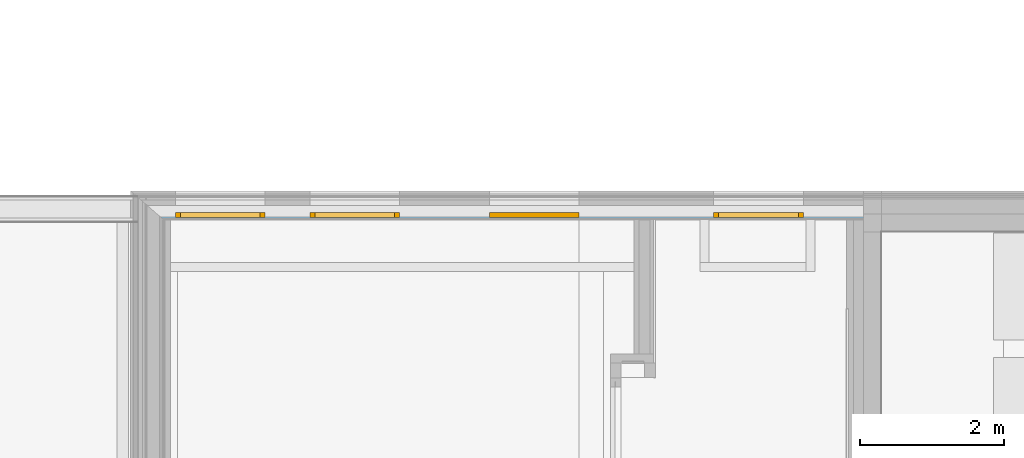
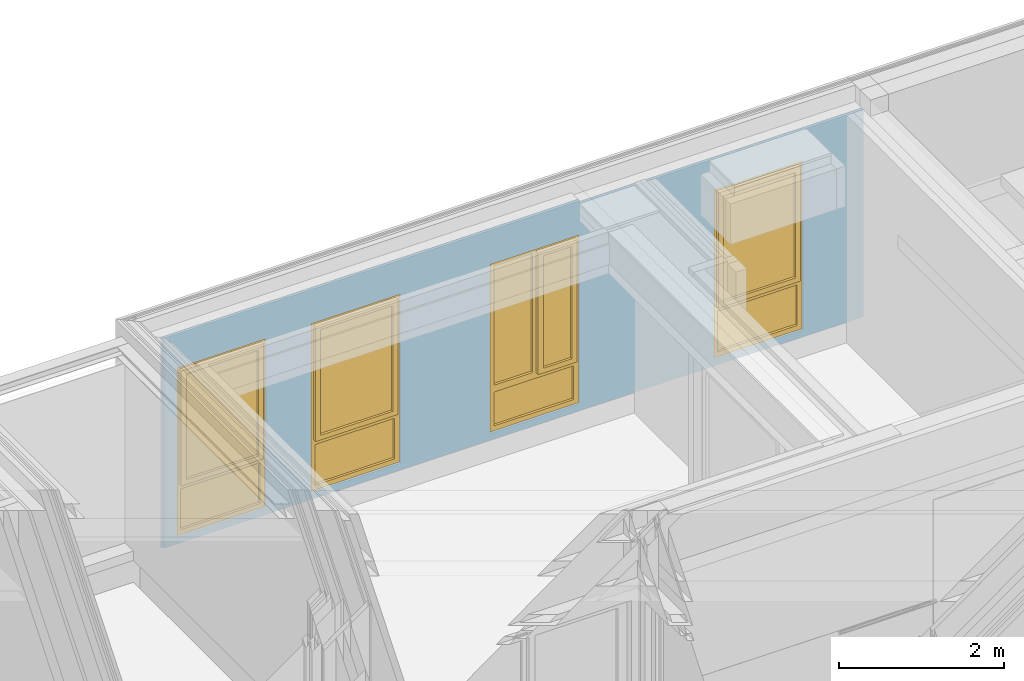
# One storey, part 115 of 207: 4 windows, 4 openings, plus 1 element that does not belong to this part.
"""IFC4 building model written with IfcOpenShell, lengths in metres."""

from ifc_helpers import new_model, entity, si_unit, converted_unit, derived_unit, frame, origin, origin_with_axes, place, context, subcontext, project, spatial, polyline, outline, extrude, clip, bounded_halfspace, closed_shell, open_shell, surface_model, source, transform, mapped, material, type_object, element, fill, save


model = new_model("IFC4")

# Units and contexts
model_context = context("Model", 3, precision=1e-05, world=origin())
body_context = subcontext(model_context, "Body", "Model", "MODEL_VIEW")
ifc_project = project(units=[si_unit("LENGTHUNIT", "METRE"), si_unit("AREAUNIT", "SQUARE_METRE"), si_unit("VOLUMEUNIT", "CUBIC_METRE"), si_unit("MASSUNIT", "GRAM", prefix="KILO"), converted_unit("PLANEANGLEUNIT", "DEGREE", entity("IfcPlaneAngleMeasure", 0.0174532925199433), si_unit("PLANEANGLEUNIT", "RADIAN"), dimensions=[0, 0, 0, 0, 0, 0, 0]), derived_unit("THERMALTRANSMITTANCEUNIT", [(si_unit("POWERUNIT", "WATT"), 1), (si_unit("THERMODYNAMICTEMPERATUREUNIT", "KELVIN"), -1), (si_unit("LENGTHUNIT", "METRE"), -2)]), derived_unit("VOLUMETRICFLOWRATEUNIT", [(si_unit("LENGTHUNIT", "METRE"), 3), (converted_unit("TIMEUNIT", "hour", entity("IfcTimeMeasure", 3600.0), si_unit("TIMEUNIT", "SECOND"), dimensions=[0, 0, 1, 0, 0, 0, 0]), -1), (si_unit("LENGTHUNIT", "METRE"), -1)])], contexts=[model_context])

# Site, building, storey
site_placement = place(None, origin())
site = spatial("IfcSite", under=ifc_project, at=site_placement, Name="Psychiatrie Neubau Wunstorf", CompositionType="ELEMENT")
building_placement = place(site_placement, origin())
building = spatial("IfcBuilding", under=site, at=building_placement, Name="Neubau H2 Stationsgebäude", CompositionType="ELEMENT")
storey_placement = place(building_placement, frame((0.0, 0.0, -0.2)))
storey = spatial("IfcBuildingStorey", under=building, at=storey_placement, Name="H2 Ebene 0", CompositionType="ELEMENT", Elevation=-0.2)

# Wall, openings, windows
ifc_material = material(Name="WA-LB")
wall_placement = place(storey_placement, frame((38.1475, 29.0639996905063, 0.5)))
wall = element("IfcWall", 1, at=wall_placement, inside=storey, material=ifc_material, context=body_context, shape_type="Clipping", body=[
    clip(extrude(outline(polyline([(0.041373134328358, 0.0), (9.79387313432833, 0.0), (9.79387313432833, 0.036), (0.0, 0.036), (0.041373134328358, 0.0)])), frame((-0.041373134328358, 0.0, 0.0), z_axis=(0.0, 0.0, 1.0), x_axis=(1.0, 0.0, 0.0)), (0.0, 0.0, 1.0), 3.1), bounded_halfspace(frame((7.77125000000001, 0.018, 3.06), z_axis=(0.0, 0.0, -1.0), x_axis=(1.0, 0.0, 0.0)), True, origin_with_axes(), polyline([(5.79000000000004, 0.0), (9.75249999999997, 0.0), (9.75249999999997, 0.036), (5.79000000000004, 0.036), (5.79000000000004, 0.0)]))),
])
opening_1_placement = place(wall_placement, frame((1.41500000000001, 0.036, 0.1), z_axis=(0.0, -1.0, 0.0), x_axis=(0.0, 0.0, 1.0)))
opening_1 = element("IfcOpeningElement", 2, at=opening_1_placement, cuts=wall, Name="Fensteröffnung", ObjectType="Opening", context=body_context, shape_type="SweptSolid", body=[
    extrude(outline(polyline([(2.5, 1.25), (2.5, 0.0), (0.0, 0.0), (0.0, 1.25), (2.5, 1.25)])), origin_with_axes(), (0.0, 0.0, 1.0), 0.036),
])
opening_2_placement = place(wall_placement, frame((8.91500000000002, 0.036, 0.1), z_axis=(0.0, -1.0, 0.0), x_axis=(0.0, 0.0, 1.0)))
opening_2 = element("IfcOpeningElement", 3, at=opening_2_placement, cuts=wall, Name="Fensteröffnung", ObjectType="Opening", context=body_context, shape_type="SweptSolid", body=[
    extrude(outline(polyline([(2.5, 1.25), (2.5, 0.0), (0.0, 0.0), (0.0, 1.25), (2.5, 1.25)])), origin_with_axes(), (0.0, 0.0, 1.0), 0.036),
])
opening_3_placement = place(wall_placement, frame((5.79000000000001, 0.036, 0.1), z_axis=(0.0, -1.0, 0.0), x_axis=(0.0, 0.0, 1.0)))
opening_3 = element("IfcOpeningElement", 4, at=opening_3_placement, cuts=wall, Name="Fensteröffnung", ObjectType="Opening", context=body_context, shape_type="SweptSolid", body=[
    extrude(outline(polyline([(2.5, 1.25), (2.5, 0.0), (0.0, 0.0), (0.0, 1.25), (2.5, 1.25)])), origin_with_axes(), (0.0, 0.0, 1.0), 0.036),
])
opening_4_placement = place(wall_placement, frame((3.29000000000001, 0.036, 0.1), z_axis=(0.0, -1.0, 0.0), x_axis=(0.0, 0.0, 1.0)))
opening_4 = element("IfcOpeningElement", 5, at=opening_4_placement, cuts=wall, Name="Fensteröffnung", ObjectType="Opening", context=body_context, shape_type="SweptSolid", body=[
    extrude(outline(polyline([(2.5, 1.25), (2.5, 0.0), (0.0, 0.0), (0.0, 1.25), (2.5, 1.25)])), origin_with_axes(), (0.0, 0.0, 1.0), 0.036),
])
window_type_1 = type_object("IfcWindowType", Name="Fenster", ParameterTakesPrecedence=False, PartitioningType="SINGLE_PANEL", PredefinedType="WINDOW")
shared_shape_1 = source(origin_with_axes(), body_context, "Body", "SurfaceModel", [
    surface_model("IfcShellBasedSurfaceModel", [(0.0, 0.0, 2.5), (0.07, 0.0, 2.5), (0.07, 0.0, 0.0), (0.0, 0.0, 0.0), (0.0, 0.0699999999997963, 0.0), (0.07, 0.0699999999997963, 0.0), (0.07, 0.0699999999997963, 2.5), (0.0, 0.0699999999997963, 2.5)], [closed_shell([[[0, 1, 2, 3]], [[4, 5, 6, 7]], [[3, 4, 7, 0]], [[2, 5, 4, 3]], [[1, 6, 5, 2]], [[0, 7, 6, 1]]], orient=[[False], [False], [False], [False], [False], [False]])]),
    surface_model("IfcShellBasedSurfaceModel", [(1.18, 0.0, 2.5), (1.25, 0.0, 2.5), (1.25, 0.0, 0.0), (1.18, 0.0, 0.0), (1.18, 0.0699999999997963, 0.0), (1.25, 0.0699999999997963, 0.0), (1.25, 0.0699999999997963, 2.5), (1.18, 0.0699999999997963, 2.5)], [closed_shell([[[0, 1, 2, 3]], [[4, 5, 6, 7]], [[3, 4, 7, 0]], [[2, 5, 4, 3]], [[1, 6, 5, 2]], [[0, 7, 6, 1]]], orient=[[False], [False], [False], [False], [False], [False]])]),
    surface_model("IfcShellBasedSurfaceModel", [(0.07, 0.0, 0.07), (1.18, 0.0, 0.07), (1.18, 0.0, 0.0), (0.07, 0.0, 0.0), (0.07, 0.0699999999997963, 0.0), (1.18, 0.0699999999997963, 0.0), (1.18, 0.0699999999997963, 0.07), (0.07, 0.0699999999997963, 0.07)], [closed_shell([[[0, 1, 2, 3]], [[4, 5, 6, 7]], [[3, 4, 7, 0]], [[2, 5, 4, 3]], [[1, 6, 5, 2]], [[0, 7, 6, 1]]], orient=[[False], [False], [False], [False], [False], [False]])]),
    surface_model("IfcShellBasedSurfaceModel", [(0.07, 0.0, 2.5), (1.18, 0.0, 2.5), (1.18, 0.0, 2.43), (0.07, 0.0, 2.43), (0.07, 0.0699999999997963, 2.43), (1.18, 0.0699999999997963, 2.43), (1.18, 0.0699999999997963, 2.5), (0.07, 0.0699999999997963, 2.5)], [closed_shell([[[0, 1, 2, 3]], [[4, 5, 6, 7]], [[3, 4, 7, 0]], [[2, 5, 4, 3]], [[1, 6, 5, 2]], [[0, 7, 6, 1]]], orient=[[False], [False], [False], [False], [False], [False]])]),
    surface_model("IfcShellBasedSurfaceModel", [(0.07, 0.0, 0.77), (1.18, 0.0, 0.77), (1.18, 0.0, 0.67), (0.07, 0.0, 0.67), (0.07, 0.0699999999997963, 0.67), (1.18, 0.0699999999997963, 0.67), (1.18, 0.0699999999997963, 0.77), (0.07, 0.0699999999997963, 0.77)], [closed_shell([[[0, 1, 2, 3]], [[4, 5, 6, 7]], [[3, 4, 7, 0]], [[2, 5, 4, 3]], [[1, 6, 5, 2]], [[0, 7, 6, 1]]], orient=[[False], [False], [False], [False], [False], [False]])]),
    surface_model("IfcShellBasedSurfaceModel", [(0.07, 0.0349999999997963, 0.07), (0.07, 0.0349999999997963, 0.67), (1.18, 0.0349999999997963, 0.67), (1.18, 0.0349999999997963, 0.07)], [open_shell([[[0, 1, 2, 3]]], orient=[[False]])]),
    surface_model("IfcShellBasedSurfaceModel", [(0.05, 0.0499999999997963, 2.45), (0.12, 0.0499999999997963, 2.45), (0.12, 0.0499999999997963, 0.75), (0.05, 0.0499999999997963, 0.75), (0.05, 0.119999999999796, 0.75), (0.12, 0.119999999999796, 0.75), (0.12, 0.119999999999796, 2.45), (0.05, 0.119999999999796, 2.45)], [closed_shell([[[0, 1, 2, 3]], [[4, 5, 6, 7]], [[3, 4, 7, 0]], [[2, 5, 4, 3]], [[1, 6, 5, 2]], [[0, 7, 6, 1]]], orient=[[False], [False], [False], [False], [False], [False]])]),
    surface_model("IfcShellBasedSurfaceModel", [(1.13, 0.0499999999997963, 2.45), (1.2, 0.0499999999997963, 2.45), (1.2, 0.0499999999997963, 0.75), (1.13, 0.0499999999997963, 0.75), (1.13, 0.119999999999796, 0.75), (1.2, 0.119999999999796, 0.75), (1.2, 0.119999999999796, 2.45), (1.13, 0.119999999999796, 2.45)], [closed_shell([[[0, 1, 2, 3]], [[4, 5, 6, 7]], [[3, 4, 7, 0]], [[2, 5, 4, 3]], [[1, 6, 5, 2]], [[0, 7, 6, 1]]], orient=[[False], [False], [False], [False], [False], [False]])]),
    surface_model("IfcShellBasedSurfaceModel", [(0.12, 0.0499999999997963, 0.82), (1.13, 0.0499999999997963, 0.82), (1.13, 0.0499999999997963, 0.75), (0.12, 0.0499999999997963, 0.75), (0.12, 0.119999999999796, 0.75), (1.13, 0.119999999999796, 0.75), (1.13, 0.119999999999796, 0.82), (0.12, 0.119999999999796, 0.82)], [closed_shell([[[0, 1, 2, 3]], [[4, 5, 6, 7]], [[3, 4, 7, 0]], [[2, 5, 4, 3]], [[1, 6, 5, 2]], [[0, 7, 6, 1]]], orient=[[False], [False], [False], [False], [False], [False]])]),
    surface_model("IfcShellBasedSurfaceModel", [(0.12, 0.0499999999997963, 2.45), (1.13, 0.0499999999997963, 2.45), (1.13, 0.0499999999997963, 2.38), (0.12, 0.0499999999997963, 2.38), (0.12, 0.119999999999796, 2.38), (1.13, 0.119999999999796, 2.38), (1.13, 0.119999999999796, 2.45), (0.12, 0.119999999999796, 2.45)], [closed_shell([[[0, 1, 2, 3]], [[4, 5, 6, 7]], [[3, 4, 7, 0]], [[2, 5, 4, 3]], [[1, 6, 5, 2]], [[0, 7, 6, 1]]], orient=[[False], [False], [False], [False], [False], [False]])]),
    surface_model("IfcShellBasedSurfaceModel", [(0.12, 0.0849999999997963, 0.82), (0.12, 0.0849999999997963, 2.38), (1.13, 0.0849999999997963, 2.38), (1.13, 0.0849999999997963, 0.82)], [open_shell([[[0, 1, 2, 3]]], orient=[[False]])]),
])
window_1_placement = place(opening_1_placement, frame((0.0, 0.0, -0.064), z_axis=(1.0, 0.0, 0.0), x_axis=(0.0, 1.0, 0.0)))
window_1 = element("IfcWindow", 6, at=window_1_placement, inside=storey, type_object=window_type_1, Name="Fenster", OverallHeight=2.5, OverallWidth=1.25, context=body_context, shape_type="MappedRepresentation", body=[
    mapped(shared_shape_1, transform((0.0, 0.0, 0.0), x_axis=(1.0, 0.0, 0.0), y_axis=(0.0, 1.0, 0.0), z_axis=(0.0, 0.0, 1.0), scale=1.0)),
])
fill(opening_1, window_1)
window_type_2 = type_object("IfcWindowType", Name="Fenster", ParameterTakesPrecedence=False, PartitioningType="DOUBLE_PANEL_HORIZONTAL", PredefinedType="WINDOW")
shared_shape_2 = source(origin_with_axes(), body_context, "Body", "SurfaceModel", [
    surface_model("IfcShellBasedSurfaceModel", [(0.0, 0.0, 2.5), (0.07, 0.0, 2.5), (0.07, 0.0, 0.0), (0.0, 0.0, 0.0), (0.0, 0.0699999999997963, 0.0), (0.07, 0.0699999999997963, 0.0), (0.07, 0.0699999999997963, 2.5), (0.0, 0.0699999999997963, 2.5)], [closed_shell([[[0, 1, 2, 3]], [[4, 5, 6, 7]], [[3, 4, 7, 0]], [[2, 5, 4, 3]], [[1, 6, 5, 2]], [[0, 7, 6, 1]]], orient=[[False], [False], [False], [False], [False], [False]])]),
    surface_model("IfcShellBasedSurfaceModel", [(1.18, 0.0, 2.5), (1.25, 0.0, 2.5), (1.25, 0.0, 0.0), (1.18, 0.0, 0.0), (1.18, 0.0699999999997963, 0.0), (1.25, 0.0699999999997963, 0.0), (1.25, 0.0699999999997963, 2.5), (1.18, 0.0699999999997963, 2.5)], [closed_shell([[[0, 1, 2, 3]], [[4, 5, 6, 7]], [[3, 4, 7, 0]], [[2, 5, 4, 3]], [[1, 6, 5, 2]], [[0, 7, 6, 1]]], orient=[[False], [False], [False], [False], [False], [False]])]),
    surface_model("IfcShellBasedSurfaceModel", [(0.07, 0.0, 0.07), (1.18, 0.0, 0.07), (1.18, 0.0, 0.0), (0.07, 0.0, 0.0), (0.07, 0.0699999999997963, 0.0), (1.18, 0.0699999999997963, 0.0), (1.18, 0.0699999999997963, 0.07), (0.07, 0.0699999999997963, 0.07)], [closed_shell([[[0, 1, 2, 3]], [[4, 5, 6, 7]], [[3, 4, 7, 0]], [[2, 5, 4, 3]], [[1, 6, 5, 2]], [[0, 7, 6, 1]]], orient=[[False], [False], [False], [False], [False], [False]])]),
    surface_model("IfcShellBasedSurfaceModel", [(0.07, 0.0, 2.5), (1.18, 0.0, 2.5), (1.18, 0.0, 2.43), (0.07, 0.0, 2.43), (0.07, 0.0699999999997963, 2.43), (1.18, 0.0699999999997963, 2.43), (1.18, 0.0699999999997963, 2.5), (0.07, 0.0699999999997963, 2.5)], [closed_shell([[[0, 1, 2, 3]], [[4, 5, 6, 7]], [[3, 4, 7, 0]], [[2, 5, 4, 3]], [[1, 6, 5, 2]], [[0, 7, 6, 1]]], orient=[[False], [False], [False], [False], [False], [False]])]),
    surface_model("IfcShellBasedSurfaceModel", [(0.07, 0.0, 0.77), (1.18, 0.0, 0.77), (1.18, 0.0, 0.67), (0.07, 0.0, 0.67), (0.07, 0.0699999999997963, 0.67), (1.18, 0.0699999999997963, 0.67), (1.18, 0.0699999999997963, 0.77), (0.07, 0.0699999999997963, 0.77)], [closed_shell([[[0, 1, 2, 3]], [[4, 5, 6, 7]], [[3, 4, 7, 0]], [[2, 5, 4, 3]], [[1, 6, 5, 2]], [[0, 7, 6, 1]]], orient=[[False], [False], [False], [False], [False], [False]])]),
    surface_model("IfcShellBasedSurfaceModel", [(0.07, 0.0349999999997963, 0.07), (0.07, 0.0349999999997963, 0.67), (1.18, 0.0349999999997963, 0.67), (1.18, 0.0349999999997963, 0.07)], [open_shell([[[0, 1, 2, 3]]], orient=[[False]])]),
    surface_model("IfcShellBasedSurfaceModel", [(0.05, 0.0499999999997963, 2.45), (0.12, 0.0499999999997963, 2.45), (0.12, 0.0499999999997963, 0.75), (0.05, 0.0499999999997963, 0.75), (0.05, 0.119999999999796, 0.75), (0.12, 0.119999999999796, 0.75), (0.12, 0.119999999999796, 2.45), (0.05, 0.119999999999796, 2.45)], [closed_shell([[[0, 1, 2, 3]], [[4, 5, 6, 7]], [[3, 4, 7, 0]], [[2, 5, 4, 3]], [[1, 6, 5, 2]], [[0, 7, 6, 1]]], orient=[[False], [False], [False], [False], [False], [False]])]),
    surface_model("IfcShellBasedSurfaceModel", [(1.13, 0.0499999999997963, 2.45), (1.2, 0.0499999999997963, 2.45), (1.2, 0.0499999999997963, 0.75), (1.13, 0.0499999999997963, 0.75), (1.13, 0.119999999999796, 0.75), (1.2, 0.119999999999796, 0.75), (1.2, 0.119999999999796, 2.45), (1.13, 0.119999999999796, 2.45)], [closed_shell([[[0, 1, 2, 3]], [[4, 5, 6, 7]], [[3, 4, 7, 0]], [[2, 5, 4, 3]], [[1, 6, 5, 2]], [[0, 7, 6, 1]]], orient=[[False], [False], [False], [False], [False], [False]])]),
    surface_model("IfcShellBasedSurfaceModel", [(0.12, 0.0499999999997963, 0.82), (1.13, 0.0499999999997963, 0.82), (1.13, 0.0499999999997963, 0.75), (0.12, 0.0499999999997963, 0.75), (0.12, 0.119999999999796, 0.75), (1.13, 0.119999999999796, 0.75), (1.13, 0.119999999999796, 0.82), (0.12, 0.119999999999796, 0.82)], [closed_shell([[[0, 1, 2, 3]], [[4, 5, 6, 7]], [[3, 4, 7, 0]], [[2, 5, 4, 3]], [[1, 6, 5, 2]], [[0, 7, 6, 1]]], orient=[[False], [False], [False], [False], [False], [False]])]),
    surface_model("IfcShellBasedSurfaceModel", [(0.12, 0.0499999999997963, 2.45), (1.13, 0.0499999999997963, 2.45), (1.13, 0.0499999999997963, 2.38), (0.12, 0.0499999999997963, 2.38), (0.12, 0.119999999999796, 2.38), (1.13, 0.119999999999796, 2.38), (1.13, 0.119999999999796, 2.45), (0.12, 0.119999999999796, 2.45)], [closed_shell([[[0, 1, 2, 3]], [[4, 5, 6, 7]], [[3, 4, 7, 0]], [[2, 5, 4, 3]], [[1, 6, 5, 2]], [[0, 7, 6, 1]]], orient=[[False], [False], [False], [False], [False], [False]])]),
    surface_model("IfcShellBasedSurfaceModel", [(0.12, 0.0849999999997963, 0.82), (0.12, 0.0849999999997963, 2.38), (1.13, 0.0849999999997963, 2.38), (1.13, 0.0849999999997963, 0.82)], [open_shell([[[0, 1, 2, 3]]], orient=[[False]])]),
])
window_2_placement = place(opening_2_placement, frame((0.0, 0.0, -0.064), z_axis=(1.0, 0.0, 0.0), x_axis=(0.0, 1.0, 0.0)))
window_2 = element("IfcWindow", 7, at=window_2_placement, inside=storey, type_object=window_type_2, Name="Fenster", OverallHeight=2.5, OverallWidth=1.25, context=body_context, shape_type="MappedRepresentation", body=[
    mapped(shared_shape_2, transform((0.0, 0.0, 0.0), x_axis=(1.0, 0.0, 0.0), y_axis=(0.0, 1.0, 0.0), z_axis=(0.0, 0.0, 1.0), scale=1.0)),
])
fill(opening_2, window_2)
shared_shape_3 = source(origin_with_axes(), body_context, "Body", "SurfaceModel", [
    surface_model("IfcShellBasedSurfaceModel", [(1.25, 0.0, 2.5), (1.25, 0.0, 0.0), (1.18, 0.0, 0.0), (1.18, 0.0, 2.5), (1.25, 0.07, 0.0), (1.25, 0.07, 2.5), (1.18, 0.07, 2.5), (1.18, 0.07, 0.0)], [closed_shell([[[0, 1, 2, 3]], [[4, 5, 6, 7]], [[1, 0, 5, 4]], [[2, 1, 4, 7]], [[3, 2, 7, 6]], [[0, 3, 6, 5]]], orient=[[False], [False], [False], [False], [False], [False]])]),
    surface_model("IfcShellBasedSurfaceModel", [(0.07, 0.0, 2.5), (0.07, 0.0, 0.0), (0.0, 0.0, 0.0), (0.0, 0.0, 2.5), (0.07, 0.07, 0.0), (0.07, 0.07, 2.5), (0.0, 0.07, 2.5), (0.0, 0.07, 0.0)], [closed_shell([[[0, 1, 2, 3]], [[4, 5, 6, 7]], [[1, 0, 5, 4]], [[2, 1, 4, 7]], [[3, 2, 7, 6]], [[0, 3, 6, 5]]], orient=[[False], [False], [False], [False], [False], [False]])]),
    surface_model("IfcShellBasedSurfaceModel", [(1.18, 0.0, 0.07), (1.18, 0.0, 0.0), (0.07, 0.0, 0.0), (0.07, 0.0, 0.07), (1.18, 0.07, 0.0), (1.18, 0.07, 0.07), (0.07, 0.07, 0.07), (0.07, 0.07, 0.0)], [closed_shell([[[0, 1, 2, 3]], [[4, 5, 6, 7]], [[1, 0, 5, 4]], [[2, 1, 4, 7]], [[3, 2, 7, 6]], [[0, 3, 6, 5]]], orient=[[False], [False], [False], [False], [False], [False]])]),
    surface_model("IfcShellBasedSurfaceModel", [(1.18, 0.0, 2.5), (1.18, 0.0, 2.43), (0.07, 0.0, 2.43), (0.07, 0.0, 2.5), (1.18, 0.07, 2.43), (1.18, 0.07, 2.5), (0.07, 0.07, 2.5), (0.07, 0.07, 2.43)], [closed_shell([[[0, 1, 2, 3]], [[4, 5, 6, 7]], [[1, 0, 5, 4]], [[2, 1, 4, 7]], [[3, 2, 7, 6]], [[0, 3, 6, 5]]], orient=[[False], [False], [False], [False], [False], [False]])]),
    surface_model("IfcShellBasedSurfaceModel", [(1.18, 0.0, 0.67), (1.18, 0.0, 0.57), (0.07, 0.0, 0.57), (0.07, 0.0, 0.67), (1.18, 0.07, 0.57), (1.18, 0.07, 0.67), (0.07, 0.07, 0.67), (0.07, 0.07, 0.57)], [closed_shell([[[0, 1, 2, 3]], [[4, 5, 6, 7]], [[1, 0, 5, 4]], [[2, 1, 4, 7]], [[3, 2, 7, 6]], [[0, 3, 6, 5]]], orient=[[False], [False], [False], [False], [False], [False]])]),
    surface_model("IfcShellBasedSurfaceModel", [(1.18, 0.035, 0.07), (0.07, 0.035, 0.07), (0.07, 0.035, 0.57), (1.18, 0.035, 0.57)], [open_shell([[[0, 1, 2, 3]]], orient=[[False]])]),
    surface_model("IfcShellBasedSurfaceModel", [(0.68, 0.0, 2.43), (0.68, 0.0, 0.67), (0.61, 0.0, 0.67), (0.61, 0.0, 2.43), (0.68, 0.07, 0.67), (0.68, 0.07, 2.43), (0.61, 0.07, 2.43), (0.61, 0.07, 0.67)], [closed_shell([[[0, 1, 2, 3]], [[4, 5, 6, 7]], [[1, 0, 5, 4]], [[2, 1, 4, 7]], [[3, 2, 7, 6]], [[0, 3, 6, 5]]], orient=[[False], [False], [False], [False], [False], [False]])]),
    surface_model("IfcShellBasedSurfaceModel", [(1.2, -0.05, 2.45), (1.2, -0.05, 0.65), (1.13, -0.05, 0.65), (1.13, -0.05, 2.45), (1.2, 0.02, 0.65), (1.2, 0.02, 2.45), (1.13, 0.02, 2.45), (1.13, 0.02, 0.65)], [closed_shell([[[0, 1, 2, 3]], [[4, 5, 6, 7]], [[1, 0, 5, 4]], [[2, 1, 4, 7]], [[3, 2, 7, 6]], [[0, 3, 6, 5]]], orient=[[False], [False], [False], [False], [False], [False]])]),
    surface_model("IfcShellBasedSurfaceModel", [(0.73, -0.05, 2.45), (0.73, -0.05, 0.65), (0.66, -0.05, 0.65), (0.66, -0.05, 2.45), (0.73, 0.02, 0.65), (0.73, 0.02, 2.45), (0.66, 0.02, 2.45), (0.66, 0.02, 0.65)], [closed_shell([[[0, 1, 2, 3]], [[4, 5, 6, 7]], [[1, 0, 5, 4]], [[2, 1, 4, 7]], [[3, 2, 7, 6]], [[0, 3, 6, 5]]], orient=[[False], [False], [False], [False], [False], [False]])]),
    surface_model("IfcShellBasedSurfaceModel", [(1.13, -0.05, 0.72), (1.13, -0.05, 0.65), (0.73, -0.05, 0.65), (0.73, -0.05, 0.72), (1.13, 0.02, 0.65), (1.13, 0.02, 0.72), (0.73, 0.02, 0.72), (0.73, 0.02, 0.65)], [closed_shell([[[0, 1, 2, 3]], [[4, 5, 6, 7]], [[1, 0, 5, 4]], [[2, 1, 4, 7]], [[3, 2, 7, 6]], [[0, 3, 6, 5]]], orient=[[False], [False], [False], [False], [False], [False]])]),
    surface_model("IfcShellBasedSurfaceModel", [(1.13, -0.05, 2.45), (1.13, -0.05, 2.38), (0.73, -0.05, 2.38), (0.73, -0.05, 2.45), (1.13, 0.02, 2.38), (1.13, 0.02, 2.45), (0.73, 0.02, 2.45), (0.73, 0.02, 2.38)], [closed_shell([[[0, 1, 2, 3]], [[4, 5, 6, 7]], [[1, 0, 5, 4]], [[2, 1, 4, 7]], [[3, 2, 7, 6]], [[0, 3, 6, 5]]], orient=[[False], [False], [False], [False], [False], [False]])]),
    surface_model("IfcShellBasedSurfaceModel", [(0.61, 0.035, 0.67), (0.07, 0.035, 0.67), (0.07, 0.035, 2.43), (0.61, 0.035, 2.43)], [open_shell([[[0, 1, 2, 3]]], orient=[[False]])]),
    surface_model("IfcShellBasedSurfaceModel", [(1.13, -0.015, 0.72), (0.73, -0.015, 0.72), (0.73, -0.015, 2.38), (1.13, -0.015, 2.38)], [open_shell([[[0, 1, 2, 3]]], orient=[[False]])]),
])
window_3_placement = place(opening_3_placement, frame((0.0, 1.25, 0.006), z_axis=(1.0, 0.0, 0.0), x_axis=(0.0, -1.0, 0.0)))
window_3 = element("IfcWindow", 8, at=window_3_placement, inside=storey, Name="Fenster", OverallHeight=2.5, OverallWidth=1.25, PartitioningType="USERDEFINED", PredefinedType="WINDOW", context=body_context, shape_type="MappedRepresentation", body=[
    mapped(shared_shape_3, transform((0.0, 0.0, 0.0), x_axis=(1.0, 0.0, 0.0), y_axis=(0.0, 1.0, 0.0), z_axis=(0.0, 0.0, 1.0), scale=1.0)),
])
fill(opening_3, window_3)
window_type_3 = type_object("IfcWindowType", Name="Fenster", ParameterTakesPrecedence=False, PartitioningType="DOUBLE_PANEL_HORIZONTAL", PredefinedType="WINDOW")
shared_shape_4 = source(origin_with_axes(), body_context, "Body", "SurfaceModel", [
    surface_model("IfcShellBasedSurfaceModel", [(1.25, 0.0, 2.5), (1.25, 0.0, 0.0), (1.18, 0.0, 0.0), (1.18, 0.0, 2.5), (1.25, 0.0699999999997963, 0.0), (1.25, 0.0699999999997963, 2.5), (1.18, 0.0699999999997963, 2.5), (1.18, 0.0699999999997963, 0.0)], [closed_shell([[[0, 1, 2, 3]], [[4, 5, 6, 7]], [[1, 0, 5, 4]], [[2, 1, 4, 7]], [[3, 2, 7, 6]], [[0, 3, 6, 5]]], orient=[[False], [False], [False], [False], [False], [False]])]),
    surface_model("IfcShellBasedSurfaceModel", [(0.07, 0.0, 2.5), (0.07, 0.0, 0.0), (0.0, 0.0, 0.0), (0.0, 0.0, 2.5), (0.07, 0.0699999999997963, 0.0), (0.07, 0.0699999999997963, 2.5), (0.0, 0.0699999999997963, 2.5), (0.0, 0.0699999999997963, 0.0)], [closed_shell([[[0, 1, 2, 3]], [[4, 5, 6, 7]], [[1, 0, 5, 4]], [[2, 1, 4, 7]], [[3, 2, 7, 6]], [[0, 3, 6, 5]]], orient=[[False], [False], [False], [False], [False], [False]])]),
    surface_model("IfcShellBasedSurfaceModel", [(1.18, 0.0, 0.07), (1.18, 0.0, 0.0), (0.07, 0.0, 0.0), (0.07, 0.0, 0.07), (1.18, 0.0699999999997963, 0.0), (1.18, 0.0699999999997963, 0.07), (0.07, 0.0699999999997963, 0.07), (0.07, 0.0699999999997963, 0.0)], [closed_shell([[[0, 1, 2, 3]], [[4, 5, 6, 7]], [[1, 0, 5, 4]], [[2, 1, 4, 7]], [[3, 2, 7, 6]], [[0, 3, 6, 5]]], orient=[[False], [False], [False], [False], [False], [False]])]),
    surface_model("IfcShellBasedSurfaceModel", [(1.18, 0.0, 2.5), (1.18, 0.0, 2.43), (0.07, 0.0, 2.43), (0.07, 0.0, 2.5), (1.18, 0.0699999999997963, 2.43), (1.18, 0.0699999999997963, 2.5), (0.07, 0.0699999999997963, 2.5), (0.07, 0.0699999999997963, 2.43)], [closed_shell([[[0, 1, 2, 3]], [[4, 5, 6, 7]], [[1, 0, 5, 4]], [[2, 1, 4, 7]], [[3, 2, 7, 6]], [[0, 3, 6, 5]]], orient=[[False], [False], [False], [False], [False], [False]])]),
    surface_model("IfcShellBasedSurfaceModel", [(1.18, 0.0, 0.77), (1.18, 0.0, 0.67), (0.07, 0.0, 0.67), (0.07, 0.0, 0.77), (1.18, 0.0699999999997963, 0.67), (1.18, 0.0699999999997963, 0.77), (0.07, 0.0699999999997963, 0.77), (0.07, 0.0699999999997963, 0.67)], [closed_shell([[[0, 1, 2, 3]], [[4, 5, 6, 7]], [[1, 0, 5, 4]], [[2, 1, 4, 7]], [[3, 2, 7, 6]], [[0, 3, 6, 5]]], orient=[[False], [False], [False], [False], [False], [False]])]),
    surface_model("IfcShellBasedSurfaceModel", [(1.18, 0.0349999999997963, 0.07), (0.07, 0.0349999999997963, 0.07), (0.07, 0.0349999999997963, 0.67), (1.18, 0.0349999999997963, 0.67)], [open_shell([[[0, 1, 2, 3]]], orient=[[False]])]),
    surface_model("IfcShellBasedSurfaceModel", [(1.2, 0.0499999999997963, 2.45), (1.2, 0.0499999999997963, 0.75), (1.13, 0.0499999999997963, 0.75), (1.13, 0.0499999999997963, 2.45), (1.2, 0.119999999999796, 0.75), (1.2, 0.119999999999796, 2.45), (1.13, 0.119999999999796, 2.45), (1.13, 0.119999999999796, 0.75)], [closed_shell([[[0, 1, 2, 3]], [[4, 5, 6, 7]], [[1, 0, 5, 4]], [[2, 1, 4, 7]], [[3, 2, 7, 6]], [[0, 3, 6, 5]]], orient=[[False], [False], [False], [False], [False], [False]])]),
    surface_model("IfcShellBasedSurfaceModel", [(0.12, 0.0499999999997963, 2.45), (0.12, 0.0499999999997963, 0.75), (0.05, 0.0499999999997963, 0.75), (0.05, 0.0499999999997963, 2.45), (0.12, 0.119999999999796, 0.75), (0.12, 0.119999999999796, 2.45), (0.05, 0.119999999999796, 2.45), (0.05, 0.119999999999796, 0.75)], [closed_shell([[[0, 1, 2, 3]], [[4, 5, 6, 7]], [[1, 0, 5, 4]], [[2, 1, 4, 7]], [[3, 2, 7, 6]], [[0, 3, 6, 5]]], orient=[[False], [False], [False], [False], [False], [False]])]),
    surface_model("IfcShellBasedSurfaceModel", [(1.13, 0.0499999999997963, 0.82), (1.13, 0.0499999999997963, 0.75), (0.12, 0.0499999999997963, 0.75), (0.12, 0.0499999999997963, 0.82), (1.13, 0.119999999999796, 0.75), (1.13, 0.119999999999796, 0.82), (0.12, 0.119999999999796, 0.82), (0.12, 0.119999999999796, 0.75)], [closed_shell([[[0, 1, 2, 3]], [[4, 5, 6, 7]], [[1, 0, 5, 4]], [[2, 1, 4, 7]], [[3, 2, 7, 6]], [[0, 3, 6, 5]]], orient=[[False], [False], [False], [False], [False], [False]])]),
    surface_model("IfcShellBasedSurfaceModel", [(1.13, 0.0499999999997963, 2.45), (1.13, 0.0499999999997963, 2.38), (0.12, 0.0499999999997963, 2.38), (0.12, 0.0499999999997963, 2.45), (1.13, 0.119999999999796, 2.38), (1.13, 0.119999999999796, 2.45), (0.12, 0.119999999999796, 2.45), (0.12, 0.119999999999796, 2.38)], [closed_shell([[[0, 1, 2, 3]], [[4, 5, 6, 7]], [[1, 0, 5, 4]], [[2, 1, 4, 7]], [[3, 2, 7, 6]], [[0, 3, 6, 5]]], orient=[[False], [False], [False], [False], [False], [False]])]),
    surface_model("IfcShellBasedSurfaceModel", [(1.13, 0.0849999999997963, 0.82), (0.12, 0.0849999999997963, 0.82), (0.12, 0.0849999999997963, 2.38), (1.13, 0.0849999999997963, 2.38)], [open_shell([[[0, 1, 2, 3]]], orient=[[False]])]),
])
window_4_placement = place(opening_4_placement, frame((0.0, 0.0, -0.064), z_axis=(1.0, 0.0, 0.0), x_axis=(0.0, 1.0, 0.0)))
window_4 = element("IfcWindow", 9, at=window_4_placement, inside=storey, type_object=window_type_3, Name="Fenster", OverallHeight=2.5, OverallWidth=1.25, context=body_context, shape_type="MappedRepresentation", body=[
    mapped(shared_shape_4, transform((0.0, 0.0, 0.0), x_axis=(1.0, 0.0, 0.0), y_axis=(0.0, 1.0, 0.0), z_axis=(0.0, 0.0, 1.0), scale=1.0)),
])
fill(opening_4, window_4)

save(model, "model.ifc")
